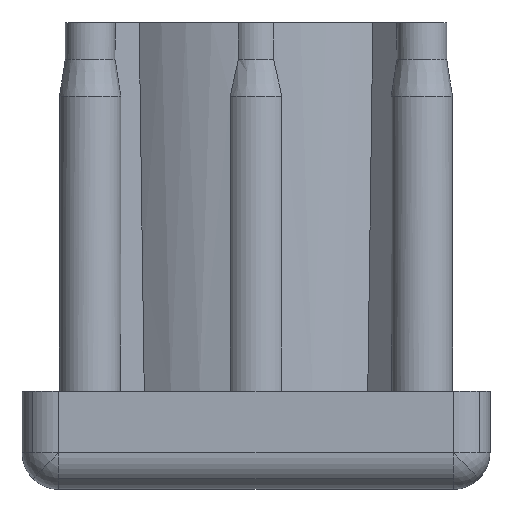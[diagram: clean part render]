
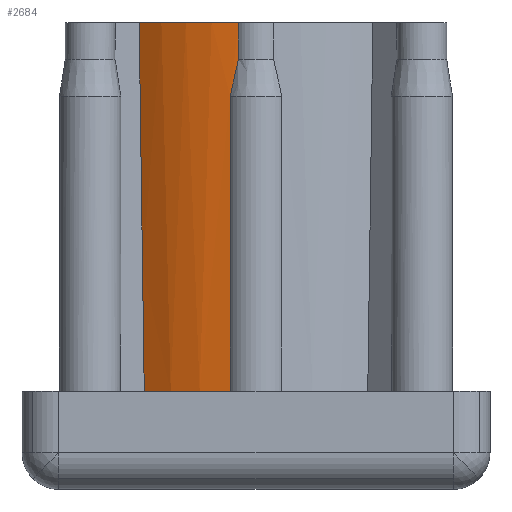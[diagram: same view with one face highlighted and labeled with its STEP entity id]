
A CAD part, front view. The second image highlights one B-rep face of the part: STEP entity #2684.
In plain terms, the highlighted cylindrical face has radius 15 mm (diameter 30 mm), a partial arc.
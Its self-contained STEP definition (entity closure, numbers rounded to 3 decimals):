
#147 = DIRECTION ( 'NONE',  ( 0., 0., 1. ) ) ;
#173 = VERTEX_POINT ( 'NONE', #1401 ) ;
#375 = VERTEX_POINT ( 'NONE', #3742 ) ;
#415 = VERTEX_POINT ( 'NONE', #1613 ) ;
#494 = CARTESIAN_POINT ( 'NONE',  ( -2.103, -14.852, 22.25 ) ) ;
#496 = VECTOR ( 'NONE', #147, 1000. ) ;
#500 = B_SPLINE_CURVE_WITH_KNOTS ( 'NONE', 3,
 ( #1380, #2032, #3586, #787 ),
 .UNSPECIFIED., .F., .F.,
 ( 4, 4 ),
 ( 0., 1. ),
 .UNSPECIFIED. ) ;
#580 = VECTOR ( 'NONE', #3378, 1000. ) ;
#581 = AXIS2_PLACEMENT_3D ( 'NONE', #1891, #933, #3106 ) ;
#654 = EDGE_CURVE ( 'NONE', #2056, #990, #3320, .T. ) ;
#787 = CARTESIAN_POINT ( 'NONE',  ( -1.432, -14.931, 34.25 ) ) ;
#920 = ORIENTED_EDGE ( 'NONE', *, *, #654, .T. ) ;
#933 = DIRECTION ( 'NONE',  ( 0., 0., 1. ) ) ;
#990 = VERTEX_POINT ( 'NONE', #3937 ) ;
#1008 = CARTESIAN_POINT ( 'NONE',  ( -9.511, -11.599, 37.25 ) ) ;
#1199 = DIRECTION ( 'NONE',  ( 0.707, -0.707, 0.017 ) ) ;
#1228 = EDGE_CURVE ( 'NONE', #990, #375, #1343, .T. ) ;
#1343 = CIRCLE ( 'NONE', #581, 15. ) ;
#1380 = CARTESIAN_POINT ( 'NONE',  ( -2.103, -14.852, 31.25 ) ) ;
#1397 = CARTESIAN_POINT ( 'NONE',  ( 0., 0., 37.25 ) ) ;
#1401 = CARTESIAN_POINT ( 'NONE',  ( -1.432, -14.931, 34.25 ) ) ;
#1460 = DIRECTION ( 'NONE',  ( 1., 0., 0. ) ) ;
#1509 = ORIENTED_EDGE ( 'NONE', *, *, #1228, .T. ) ;
#1606 = AXIS2_PLACEMENT_3D ( 'NONE', #3319, #1820, #1460 ) ;
#1613 = CARTESIAN_POINT ( 'NONE',  ( -1.432, -14.931, 37.25 ) ) ;
#1635 = VERTEX_POINT ( 'NONE', #3122 ) ;
#1820 = DIRECTION ( 'NONE',  ( 0., 0., 1. ) ) ;
#1829 = EDGE_CURVE ( 'NONE', #2056, #415, #1845, .T. ) ;
#1845 = CIRCLE ( 'NONE', #1606, 15. ) ;
#1851 = ORIENTED_EDGE ( 'NONE', *, *, #2625, .T. ) ;
#1864 = CARTESIAN_POINT ( 'NONE',  ( -1.432, -14.931, 35.75 ) ) ;
#1891 = CARTESIAN_POINT ( 'NONE',  ( 0., 0., 7.25 ) ) ;
#1985 = LINE ( 'NONE', #494, #496 ) ;
#2032 = CARTESIAN_POINT ( 'NONE',  ( -1.856, -14.887, 32.442 ) ) ;
#2056 = VERTEX_POINT ( 'NONE', #1008 ) ;
#2159 = LINE ( 'NONE', #1864, #580 ) ;
#2376 = DIRECTION ( 'NONE',  ( 0., 0., -1. ) ) ;
#2567 = ORIENTED_EDGE ( 'NONE', *, *, #1829, .F. ) ;
#2616 = AXIS2_PLACEMENT_3D ( 'NONE', #1397, #2376, #2686 ) ;
#2625 = EDGE_CURVE ( 'NONE', #1635, #173, #500, .T. ) ;
#2662 = AXIS2_PLACEMENT_3D ( 'NONE', #3413, #1199, #3360 ) ;
#2677 = EDGE_CURVE ( 'NONE', #375, #1635, #1985, .T. ) ;
#2684 = ADVANCED_FACE ( 'NONE', ( #3833 ), #3625, .T. ) ;
#2686 = DIRECTION ( 'NONE',  ( -1., 0., 0. ) ) ;
#3106 = DIRECTION ( 'NONE',  ( 1., 0., 0. ) ) ;
#3122 = CARTESIAN_POINT ( 'NONE',  ( -2.103, -14.852, 31.25 ) ) ;
#3199 = ORIENTED_EDGE ( 'NONE', *, *, #3977, .T. ) ;
#3319 = CARTESIAN_POINT ( 'NONE',  ( 0., 0., 37.25 ) ) ;
#3320 = CIRCLE ( 'NONE', #2662, 48254.36 ) ;
#3360 = DIRECTION ( 'NONE',  ( -0.707, -0.707, -0.002 ) ) ;
#3378 = DIRECTION ( 'NONE',  ( 0., 0., 1. ) ) ;
#3413 = CARTESIAN_POINT ( 'NONE',  ( 34110.396, 34110.363, 120.499 ) ) ;
#3586 = CARTESIAN_POINT ( 'NONE',  ( -1.632, -14.912, 33.442 ) ) ;
#3625 = CYLINDRICAL_SURFACE ( 'NONE', #2616, 15. ) ;
#3635 = ORIENTED_EDGE ( 'NONE', *, *, #2677, .T. ) ;
#3742 = CARTESIAN_POINT ( 'NONE',  ( -2.103, -14.852, 7.25 ) ) ;
#3833 = FACE_OUTER_BOUND ( 'NONE', #3980, .T. ) ;
#3937 = CARTESIAN_POINT ( 'NONE',  ( -9.098, -11.926, 7.25 ) ) ;
#3977 = EDGE_CURVE ( 'NONE', #173, #415, #2159, .T. ) ;
#3980 = EDGE_LOOP ( 'NONE', ( #2567, #920, #1509, #3635, #1851, #3199 ) ) ;
